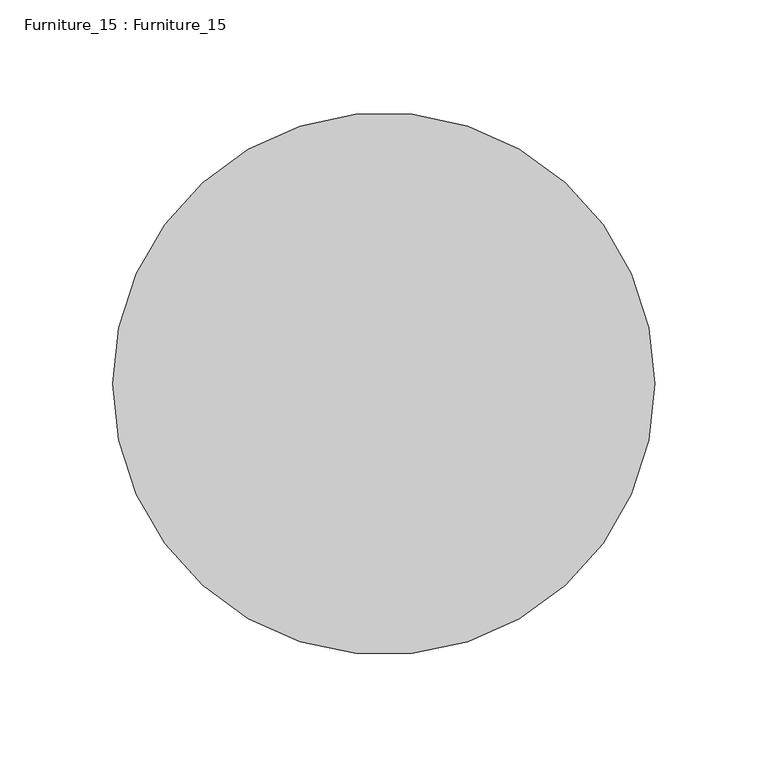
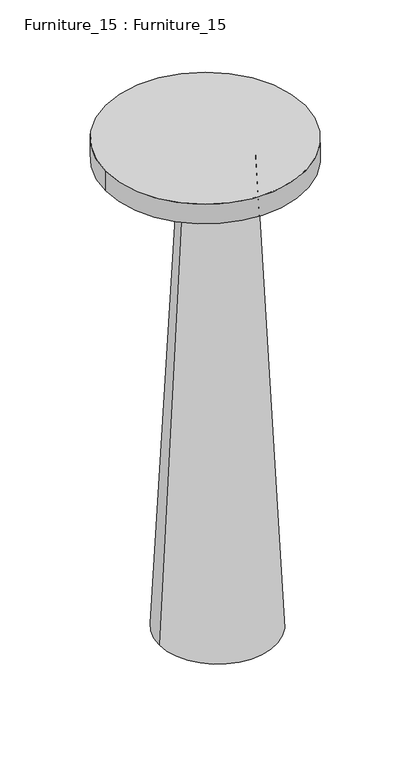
"""IFC4 building model written with IfcOpenShell, lengths in millimetres: furniture geometry, Furniture_15 : Furniture_15."""

from ifc_helpers import new_model, si_unit, point, frame, origin, origin_2d, place, context, project, spatial, polyline, circle_curve, trimmed, segment, composite_curve, outline, extrude, source, transform, mapped, element, save
from ifc_brep_helpers import plane_surface, revolved_surface, advanced_brep


def furniture_15_furniture_15_eee239be(model_context):
    return source(origin(), model_context, "Body", "SolidModel", [
        advanced_brep(
        [(-55.3808299, 0.0, 0.0), (84.6191701, 0.0, 0.0), (-25.3808299, 0.0, 600.0), (54.6191701, 0.0, 600.0)],
        [
            (0, 1, circle_curve(frame((14.6191701, 0.0, 0.0), z_axis=(0.0, 0.0, -1.0), x_axis=(-1.0, 0.0, 0.0)), 70.0)),
            (1, 0, circle_curve(frame((14.6191701, 0.0, 0.0), z_axis=(0.0, 0.0, -1.0), x_axis=(1.0, 0.0, 0.0)), 70.0)),
            (2, 3, circle_curve(frame((14.6191701, 0.0, 600.0), z_axis=(0.0, 0.0, 1.0), x_axis=(1.0, 0.0, 0.0)), 40.0)),
            (3, 2, circle_curve(frame((14.6191701, 0.0, 600.0), z_axis=(0.0, 0.0, 1.0), x_axis=(-1.0, 0.0, 0.0)), 40.0)),
            (3, 1),
            (0, 2),
        ],
        [
            plane_surface(frame((14.6191701, 0.0, 0.0), z_axis=(0.0, 0.0, -1.0), x_axis=(0.0, 1.0, 0.0))),
            plane_surface(frame((14.6191701, 0.0, 600.0), z_axis=(0.0, 0.0, 1.0), x_axis=(0.0, 1.0, 0.0))),
            revolved_surface(polyline([(54.6191701, 0.0, 600.0), (84.6191701, 0.0, 0.0)]), (14.6191701, 0.0, 1400.0), (0.0, 0.0, -1.0)),
            revolved_surface(polyline([(-25.380829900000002, 0.0, 600.0), (-55.3808299, 0.0, 0.0)]), (14.6191701, 0.0, 1400.0), (0.0, 0.0, -1.0)),
        ],
        [
            (0, [[1, 2]]),
            (1, [[3, 4]]),
            (2, [[-4, 5, -1, 6]]),
            (3, [[-3, -6, -2, -5]]),
        ],
    ),
        extrude(outline(composite_curve([segment(trimmed(circle_curve(origin_2d(), 120.0), [point((-120.0, 0.0))], [point((120.0, 0.0))], False, "CARTESIAN"), True, "CONTINUOUS"), segment(trimmed(circle_curve(origin_2d(), 120.0), [point((120.0, 0.0))], [point((-120.0, 0.0))], False, "CARTESIAN"), True, "CONTINUOUS")], self_intersect=False)), frame((0.0, 0.0, 600.0), z_axis=(0.0, 0.0, 1.0), x_axis=(1.0, 0.0, 0.0)), (0.0, 0.0, 1.0), 25.0),
    ])


if __name__ == "__main__":
    model = new_model("IFC4")
    model_context = context("Model", 3, world=origin())
    ifc_project = project(units=[si_unit("LENGTHUNIT", "METRE", prefix="MILLI")], contexts=[model_context])
    site = spatial("IfcSite", under=ifc_project)
    building = spatial("IfcBuilding", under=site)
    placement = place(None, origin())
    furniture_15_furniture_15_shape = furniture_15_furniture_15_eee239be(model_context)
    element("IfcFurniture", 1, ObjectType="Furniture_15 : Furniture_15", at=placement, inside=building, context=model_context, shape_type="MappedRepresentation", body=[
        mapped(furniture_15_furniture_15_shape, transform((0.0, 0.0, 0.0), x_axis=(1.0, 0.0, 0.0), y_axis=(0.0, 1.0, 0.0), z_axis=(0.0, 0.0, 1.0))),
    ])
    save(model, "model.ifc")
